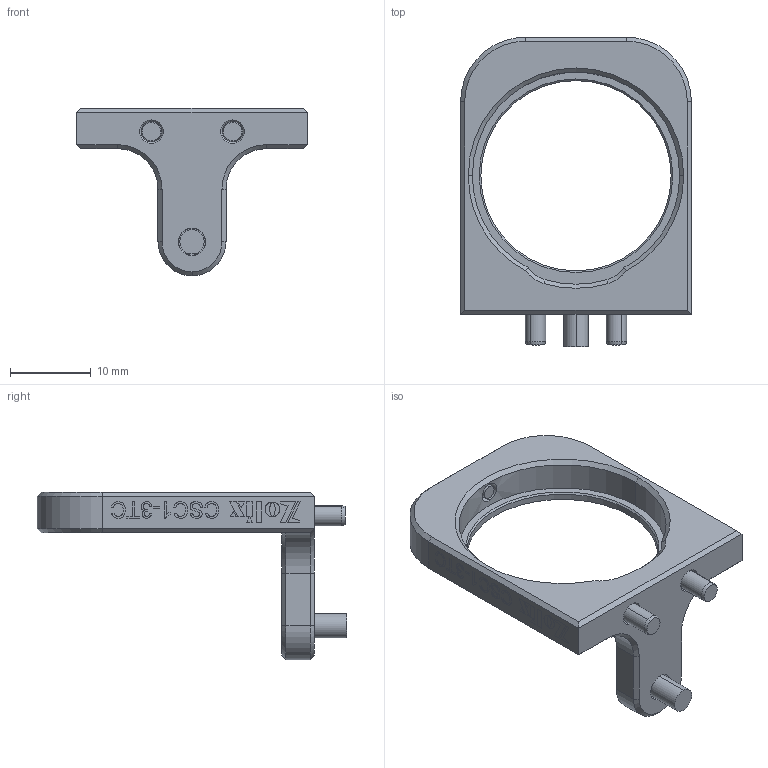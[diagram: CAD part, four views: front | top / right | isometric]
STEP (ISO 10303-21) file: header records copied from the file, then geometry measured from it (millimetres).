
FILE_DESCRIPTION (( 'STEP AP203' ), '1' );
FILE_NAME ('CSC1-3TC.STEP', '2024-03-28T03:19:45', ( '' ), ( '' ), 'SwSTEP 2.0', 'SolidWorks 2021', '' );
FILE_SCHEMA (( 'CONFIG_CONTROL_DESIGN' ));
Length unit declared in the file: millimetre
Products named in the file (1): CSC1-3TC
Bounding box: 28.5 x 38.2 x 20.7 mm (x, y, z)
Surface area: 2558 mm2 (no closed solid volume)
Topology: 0 solids, 11 shells, 162 faces, 753 edges, 594 vertices
Faces by surface type: plane 81, cylinder 30, cone 28, bspline 21, sphere 2
Entity records: 10060 total; most frequent: CARTESIAN_POINT 4301, ORIENTED_EDGE 1058, DIRECTION 1021, EDGE_CURVE 753, VERTEX_POINT 594, LINE 541, VECTOR 541, AXIS2_PLACEMENT_3D 240
